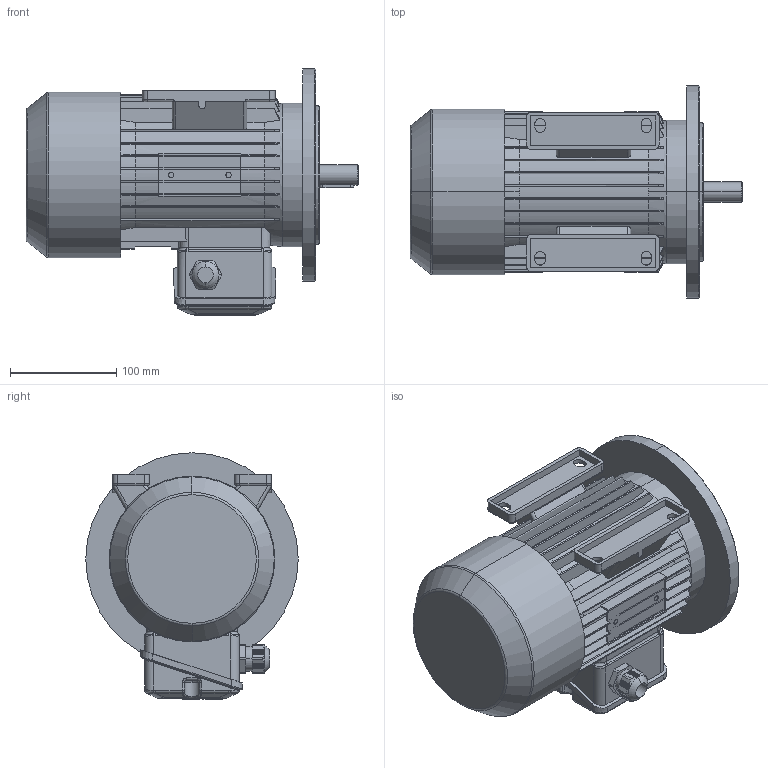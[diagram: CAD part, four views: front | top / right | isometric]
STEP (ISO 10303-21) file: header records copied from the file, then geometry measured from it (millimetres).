
FILE_DESCRIPTION (( 'STEP AP214' ), '1' );
FILE_NAME ('MAP80M4B IM2041 A200 FF165.STEP', '2020-12-18T10:50:22', ( '' ), ( '' ), 'SwSTEP 2.0', 'SolidWorks 2018', '' );
FILE_SCHEMA (( 'AUTOMOTIVE_DESIGN' ));
Length unit declared in the file: millimetre
Products named in the file (1): MAP80M4B IM2041 A200 FF165
Bounding box: 312.5 x 200 x 232 mm (x, y, z)
Volume: 5007017.7 mm3; surface area: 359634.9 mm2
Topology: 3 solids, 8 shells, 1273 faces, 3328 edges, 2076 vertices
Faces by surface type: plane 593, cylinder 332, bspline 190, cone 93, torus 63, sphere 2
Entity records: 49243 total; most frequent: CARTESIAN_POINT 19858, ORIENTED_EDGE 6580, DIRECTION 5497, EDGE_CURVE 3290, VERTEX_POINT 2076, AXIS2_PLACEMENT_3D 1871, LINE 1755, VECTOR 1755
